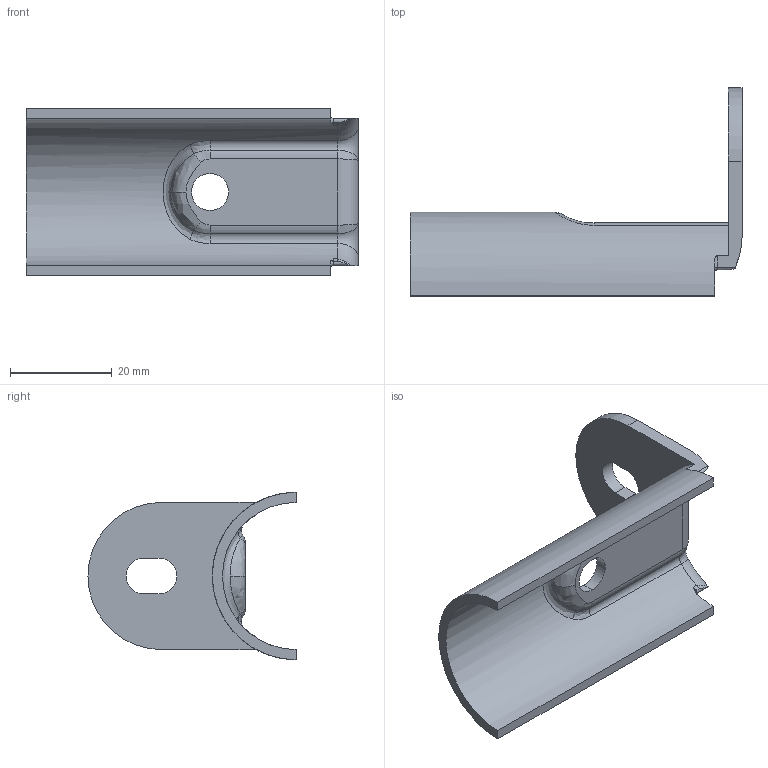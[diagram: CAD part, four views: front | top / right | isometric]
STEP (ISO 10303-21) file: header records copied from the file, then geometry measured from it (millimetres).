
FILE_DESCRIPTION (( 'STEP AP203' ), '1' );
FILE_NAME ('015.100.016.STEP', '2018-10-30T15:57:48', ( 'Localadmin' ), ( 'Microsoft' ), 'SwSTEP 2.0', 'SolidWorks 2018', '' );
FILE_SCHEMA (( 'CONFIG_CONTROL_DESIGN' ));
Length unit declared in the file: millimetre
Products named in the file (1): 015.100.016
Bounding box: 65.4 x 41 x 33 mm (x, y, z)
Volume: 8540.4 mm3; surface area: 8189.5 mm2
Topology: 1 solids, 1 shells, 59 faces, 151 edges, 92 vertices
Faces by surface type: cylinder 23, bspline 14, plane 13, torus 9
Entity records: 2990 total; most frequent: CARTESIAN_POINT 1560, ORIENTED_EDGE 298, DIRECTION 269, EDGE_CURVE 149, AXIS2_PLACEMENT_3D 109, VERTEX_POINT 92, CIRCLE 63, EDGE_LOOP 63
